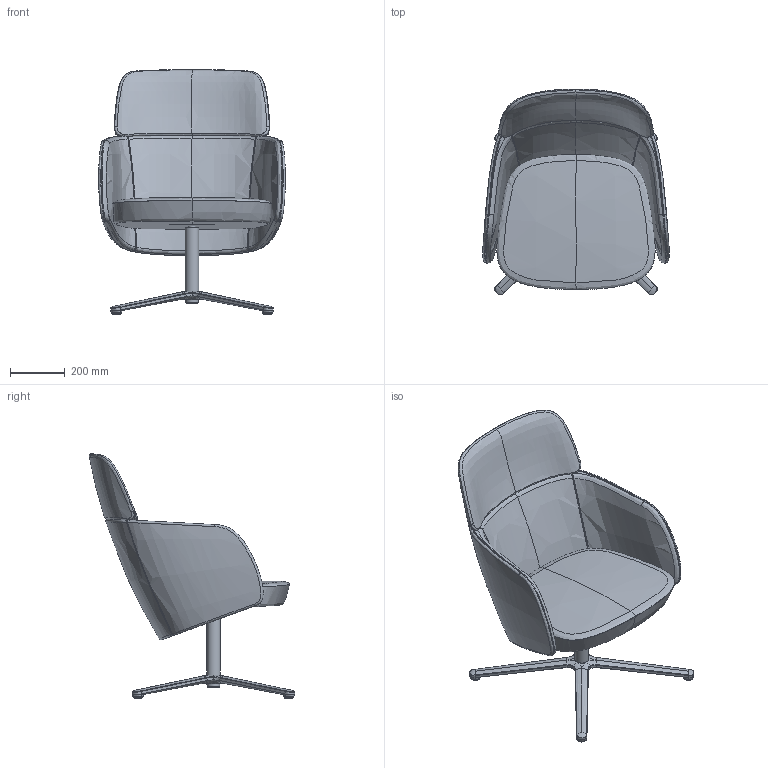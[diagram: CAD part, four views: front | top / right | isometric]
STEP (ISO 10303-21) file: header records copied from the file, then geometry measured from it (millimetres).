
FILE_DESCRIPTION(/* description */ (''),/* implementation_level */ '2;1');
FILE_NAME(/* name */ 'Winx WX 885-01',/* time_stamp */ '2020-04-03T22:31:37+02:00',/* author */ (''),/* organization */ (''),/* preprocessor_version */ 'ST-DEVELOPER v16.5',/* originating_system */ '',/* authorisation */ '');
FILE_SCHEMA (('AUTOMOTIVE_DESIGN'));
Length unit declared in the file: millimetre
Products named in the file (1): Document
Bounding box: 682.44 x 751.4 x 894.48 mm (x, y, z)
Volume: 54053023.3 mm3; surface area: 2352330.4 mm2
Topology: 5 solids, 11 shells, 270 faces, 578 edges, 317 vertices
Faces by surface type: bspline 232, plane 38
Entity records: 23535 total; most frequent: CARTESIAN_POINT 20025, ORIENTED_EDGE 1120, EDGE_CURVE 567, B_SPLINE_CURVE_WITH_KNOTS 334, VERTEX_POINT 311, ADVANCED_FACE 270, FACE_OUTER_BOUND 270, EDGE_LOOP 270
